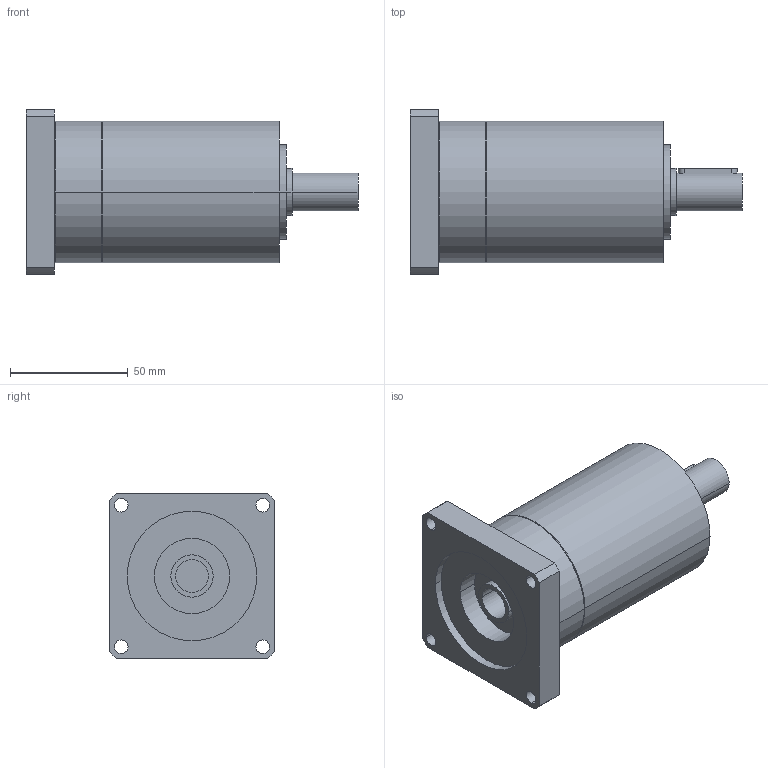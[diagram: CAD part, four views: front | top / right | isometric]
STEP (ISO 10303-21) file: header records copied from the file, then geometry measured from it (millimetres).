
FILE_DESCRIPTION(('CoCreate Modeling STEP Export'),'2;1');
FILE_NAME('GPR75_ig-9-12-16-20-24-30-36_16_B14_14_P25.stp','2014-08-25T16:03:35',(''),(''),'CoCreate Modeling STEP processor for AP214 (Solid Model)','CoCreate Modeling 16.00C 25-Feb-2009 (C) Parametric Technology GmbH','');
FILE_SCHEMA(('AUTOMOTIVE_DESIGN { 1 0 10303 214 1 1 1 1 }'));
Length unit declared in the file: millimetre
Products named in the file (2): GPR75_ig-9-12-16-20-24-30-36_16_B14_14_P25
Assembly tree (1 placements, depth 2):
  GPR75_ig-9-12-16-20-24-30-36_16_B14_14_P25
    GPR75_ig-9-12-16-20-24-30-36_16_B14_14_P25
Bounding box: 141 x 70 x 70 mm (x, y, z)
Volume: 318137.4 mm3; surface area: 41542.2 mm2
Topology: 1 solids, 1 shells, 73 faces, 197 edges, 139 vertices
Faces by surface type: cylinder 44, plane 23, cone 6
Entity records: 2019 total; most frequent: ORIENTED_EDGE 390, CARTESIAN_POINT 373, DIRECTION 272, EDGE_CURVE 195, VERTEX_POINT 139, AXIS2_PLACEMENT_3D 102, EDGE_LOOP 96, FACE_OUTER_BOUND 73
